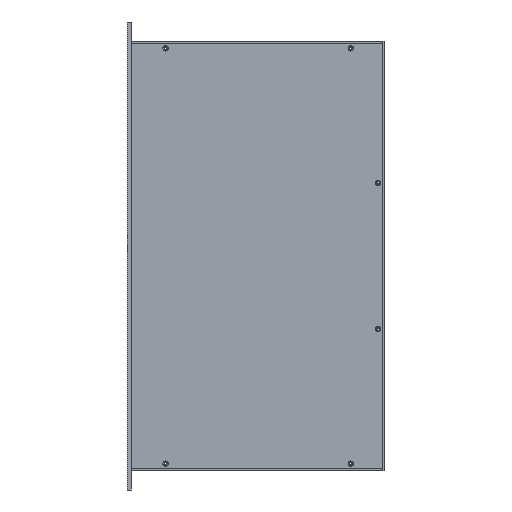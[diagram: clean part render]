
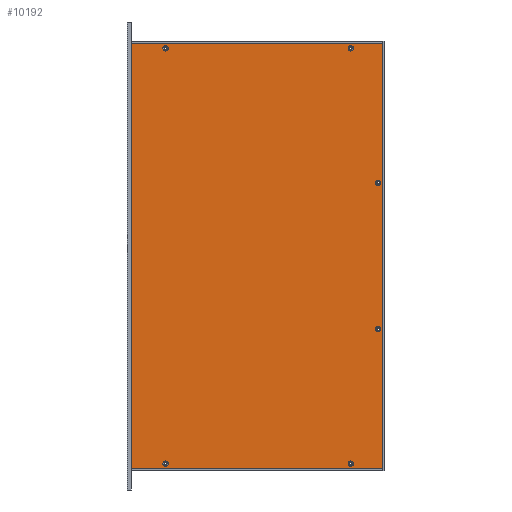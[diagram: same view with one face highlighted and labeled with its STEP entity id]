
A CAD part, front view. The second image highlights one B-rep face of the part: STEP entity #10192.
In plain terms, the highlighted planar face has unit normal (0, -1, 0).
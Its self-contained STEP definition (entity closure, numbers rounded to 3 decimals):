
#113 = VECTOR ( 'NONE', #12533, 1000. ) ;
#337 = AXIS2_PLACEMENT_3D ( 'NONE', #8699, #5681, #19443 ) ;
#509 = CARTESIAN_POINT ( 'NONE',  ( 222.51, -44.483, 693. ) ) ;
#660 = CARTESIAN_POINT ( 'NONE',  ( 258.26, -44.483, 262.5 ) ) ;
#757 = CARTESIAN_POINT ( 'NONE',  ( 35.26, -44.483, 267. ) ) ;
#1044 = EDGE_CURVE ( 'NONE', #6954, #6954, #6323, .T. ) ;
#1616 = CARTESIAN_POINT ( 'NONE',  ( 32.51, -44.483, 693. ) ) ;
#2296 = DIRECTION ( 'NONE',  ( 1., 0., 0. ) ) ;
#2353 = ORIENTED_EDGE ( 'NONE', *, *, #13411, .T. ) ;
#2743 = DIRECTION ( 'NONE',  ( 0., 1., 0. ) ) ;
#2841 = DIRECTION ( 'NONE',  ( -1., 0., 0. ) ) ;
#2929 = FACE_BOUND ( 'NONE', #18126, .T. ) ;
#3026 = DIRECTION ( 'NONE',  ( -1., 0., 0. ) ) ;
#3158 = AXIS2_PLACEMENT_3D ( 'NONE', #757, #8266, #18923 ) ;
#3278 = VECTOR ( 'NONE', #9690, 1000. ) ;
#3314 = VERTEX_POINT ( 'NONE', #660 ) ;
#3574 = CARTESIAN_POINT ( 'NONE',  ( 35.26, -44.483, 693. ) ) ;
#3698 = LINE ( 'NONE', #8314, #113 ) ;
#4120 = FACE_BOUND ( 'NONE', #12027, .T. ) ;
#4281 = DIRECTION ( 'NONE',  ( 0., 1., 0. ) ) ;
#4420 = CARTESIAN_POINT ( 'NONE',  ( 253.26, -44.483, 405. ) ) ;
#4838 = CARTESIAN_POINT ( 'NONE',  ( 250.51, -44.483, 555. ) ) ;
#4915 = VERTEX_POINT ( 'NONE', #7623 ) ;
#5322 = CARTESIAN_POINT ( 'NONE',  ( 129.26, -44.483, 480. ) ) ;
#5602 = ORIENTED_EDGE ( 'NONE', *, *, #1044, .T. ) ;
#5642 = AXIS2_PLACEMENT_3D ( 'NONE', #4420, #5829, #3026 ) ;
#5663 = ORIENTED_EDGE ( 'NONE', *, *, #8564, .F. ) ;
#5681 = DIRECTION ( 'NONE',  ( 0., 1., 0. ) ) ;
#5783 = CARTESIAN_POINT ( 'NONE',  ( 225.26, -44.483, 267. ) ) ;
#5829 = DIRECTION ( 'NONE',  ( 0., 1., 0. ) ) ;
#5993 = AXIS2_PLACEMENT_3D ( 'NONE', #5783, #4281, #8879 ) ;
#6323 = CIRCLE ( 'NONE', #5993, 2.75 ) ;
#6626 = EDGE_LOOP ( 'NONE', ( #5663, #15006, #16156, #7531 ) ) ;
#6738 = VERTEX_POINT ( 'NONE', #10749 ) ;
#6954 = VERTEX_POINT ( 'NONE', #19209 ) ;
#7171 = CARTESIAN_POINT ( 'NONE',  ( 0.26, -44.483, 697.5 ) ) ;
#7185 = ORIENTED_EDGE ( 'NONE', *, *, #7519, .T. ) ;
#7434 = EDGE_LOOP ( 'NONE', ( #13699 ) ) ;
#7519 = EDGE_CURVE ( 'NONE', #18602, #18602, #14111, .T. ) ;
#7531 = ORIENTED_EDGE ( 'NONE', *, *, #18338, .F. ) ;
#7623 = CARTESIAN_POINT ( 'NONE',  ( 250.51, -44.483, 405. ) ) ;
#7768 = EDGE_CURVE ( 'NONE', #19150, #3314, #9485, .T. ) ;
#8143 = VERTEX_POINT ( 'NONE', #509 ) ;
#8266 = DIRECTION ( 'NONE',  ( 0., 1., 0. ) ) ;
#8314 = CARTESIAN_POINT ( 'NONE',  ( 258.26, -44.483, 262.5 ) ) ;
#8564 = EDGE_CURVE ( 'NONE', #3314, #6738, #3698, .T. ) ;
#8699 = CARTESIAN_POINT ( 'NONE',  ( 253.26, -44.483, 555. ) ) ;
#8879 = DIRECTION ( 'NONE',  ( -1., 0., 0. ) ) ;
#9034 = FACE_BOUND ( 'NONE', #14785, .T. ) ;
#9327 = CARTESIAN_POINT ( 'NONE',  ( 32.51, -44.483, 267. ) ) ;
#9485 = LINE ( 'NONE', #15594, #3278 ) ;
#9677 = DIRECTION ( 'NONE',  ( 0., 1., 0. ) ) ;
#9690 = DIRECTION ( 'NONE',  ( 0., 0., -1. ) ) ;
#9748 = EDGE_CURVE ( 'NONE', #8143, #8143, #17081, .T. ) ;
#9942 = FACE_OUTER_BOUND ( 'NONE', #6626, .T. ) ;
#9982 = AXIS2_PLACEMENT_3D ( 'NONE', #16479, #2743, #2841 ) ;
#10043 = PLANE ( 'NONE',  #10809 ) ;
#10192 = ADVANCED_FACE ( 'NONE', ( #10428, #4120, #2929, #9034, #15153, #10238, #9942 ), #10043, .T. ) ;
#10238 = FACE_BOUND ( 'NONE', #15180, .T. ) ;
#10278 = LINE ( 'NONE', #7171, #13946 ) ;
#10428 = FACE_BOUND ( 'NONE', #14323, .T. ) ;
#10446 = CIRCLE ( 'NONE', #5642, 2.75 ) ;
#10749 = CARTESIAN_POINT ( 'NONE',  ( 0.26, -44.483, 262.5 ) ) ;
#10809 = AXIS2_PLACEMENT_3D ( 'NONE', #5322, #14251, #17676 ) ;
#11019 = ORIENTED_EDGE ( 'NONE', *, *, #12673, .T. ) ;
#11141 = VECTOR ( 'NONE', #2296, 1000. ) ;
#12027 = EDGE_LOOP ( 'NONE', ( #7185 ) ) ;
#12533 = DIRECTION ( 'NONE',  ( -1., 0., 0. ) ) ;
#12673 = EDGE_CURVE ( 'NONE', #16953, #16953, #15958, .T. ) ;
#13281 = DIRECTION ( 'NONE',  ( 0., 0., 1. ) ) ;
#13411 = EDGE_CURVE ( 'NONE', #4915, #4915, #10446, .T. ) ;
#13699 = ORIENTED_EDGE ( 'NONE', *, *, #13981, .T. ) ;
#13946 = VECTOR ( 'NONE', #13281, 1000. ) ;
#13981 = EDGE_CURVE ( 'NONE', #18573, #18573, #13986, .T. ) ;
#13986 = CIRCLE ( 'NONE', #15581, 2.75 ) ;
#14111 = CIRCLE ( 'NONE', #337, 2.75 ) ;
#14251 = DIRECTION ( 'NONE',  ( 0., -1., 0. ) ) ;
#14323 = EDGE_LOOP ( 'NONE', ( #2353 ) ) ;
#14785 = EDGE_LOOP ( 'NONE', ( #11019 ) ) ;
#14903 = EDGE_CURVE ( 'NONE', #18812, #19150, #15819, .T. ) ;
#15006 = ORIENTED_EDGE ( 'NONE', *, *, #7768, .F. ) ;
#15153 = FACE_BOUND ( 'NONE', #7434, .T. ) ;
#15180 = EDGE_LOOP ( 'NONE', ( #15885 ) ) ;
#15581 = AXIS2_PLACEMENT_3D ( 'NONE', #3574, #9677, #17416 ) ;
#15594 = CARTESIAN_POINT ( 'NONE',  ( 258.26, -44.483, 697.5 ) ) ;
#15819 = LINE ( 'NONE', #19145, #11141 ) ;
#15885 = ORIENTED_EDGE ( 'NONE', *, *, #9748, .T. ) ;
#15958 = CIRCLE ( 'NONE', #3158, 2.75 ) ;
#16156 = ORIENTED_EDGE ( 'NONE', *, *, #14903, .F. ) ;
#16479 = CARTESIAN_POINT ( 'NONE',  ( 225.26, -44.483, 693. ) ) ;
#16953 = VERTEX_POINT ( 'NONE', #9327 ) ;
#17081 = CIRCLE ( 'NONE', #9982, 2.75 ) ;
#17416 = DIRECTION ( 'NONE',  ( -1., 0., 0. ) ) ;
#17676 = DIRECTION ( 'NONE',  ( -1., 0., 0. ) ) ;
#18126 = EDGE_LOOP ( 'NONE', ( #5602 ) ) ;
#18338 = EDGE_CURVE ( 'NONE', #6738, #18812, #10278, .T. ) ;
#18573 = VERTEX_POINT ( 'NONE', #1616 ) ;
#18602 = VERTEX_POINT ( 'NONE', #4838 ) ;
#18812 = VERTEX_POINT ( 'NONE', #19602 ) ;
#18923 = DIRECTION ( 'NONE',  ( -1., 0., 0. ) ) ;
#19145 = CARTESIAN_POINT ( 'NONE',  ( 258.26, -44.483, 697.5 ) ) ;
#19150 = VERTEX_POINT ( 'NONE', #19283 ) ;
#19209 = CARTESIAN_POINT ( 'NONE',  ( 222.51, -44.483, 267. ) ) ;
#19283 = CARTESIAN_POINT ( 'NONE',  ( 258.26, -44.483, 697.5 ) ) ;
#19443 = DIRECTION ( 'NONE',  ( -1., 0., 0. ) ) ;
#19602 = CARTESIAN_POINT ( 'NONE',  ( 0.26, -44.483, 697.5 ) ) ;
